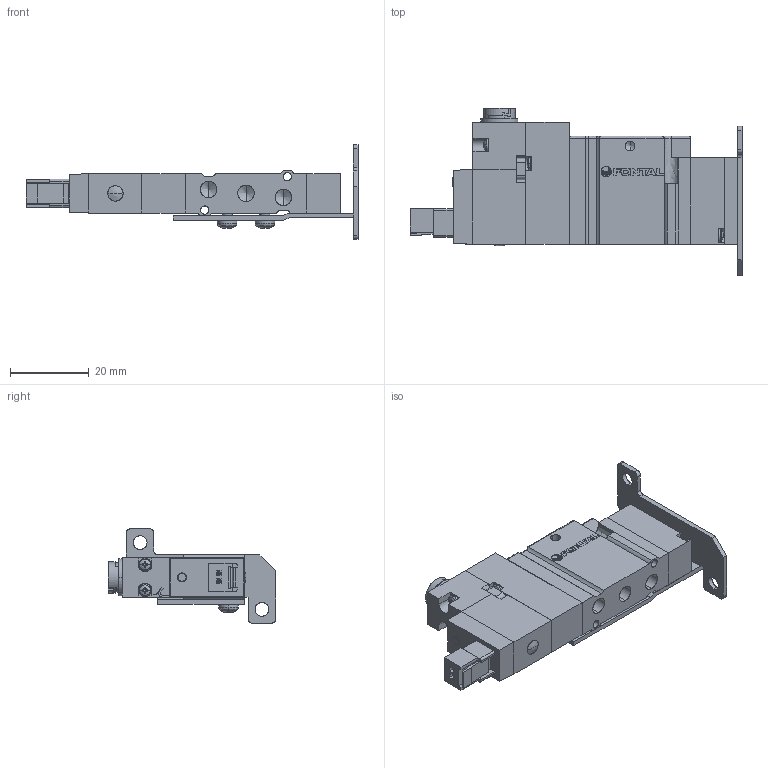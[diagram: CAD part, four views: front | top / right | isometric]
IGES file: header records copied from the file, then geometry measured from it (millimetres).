
Start section: SolidWorks IGES file using analytic representation for surfaces
Global section: file name: D:\Custom\3D繪製\ADEX\A05RS25\A05RS25#-BF-#-#-E.IGS,1; native system: 5HSolidWorks 2014; preprocessor: SolidWorks 2014; author: Chieh_Lu; date: 150725.204719; units: millimetre
Bounding box: 84.5 x 42.6 x 24 mm (x, y, z)
Surface area: 15054.6 mm2 (no closed solid volume)
Topology: 0 solids, 0 shells, 840 faces, 7140 edges, 7106 vertices
Faces by surface type: bspline 552, revolution 288
